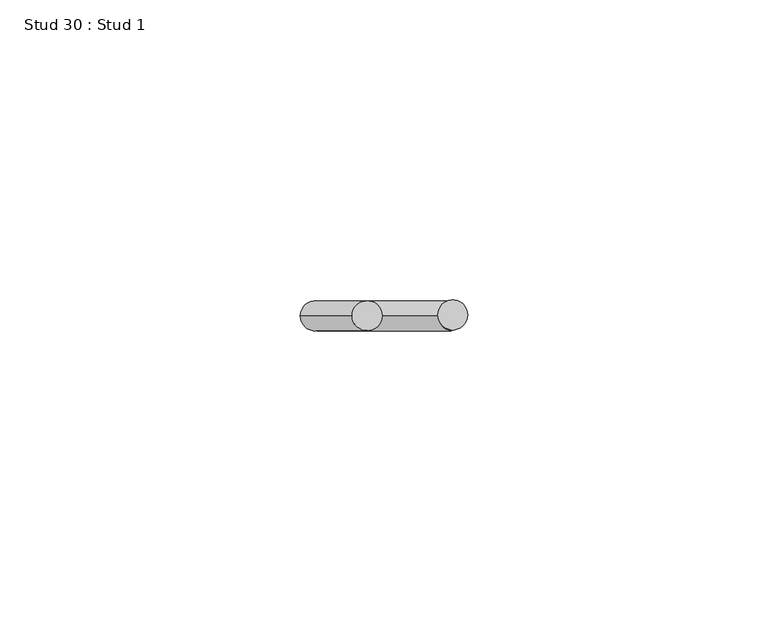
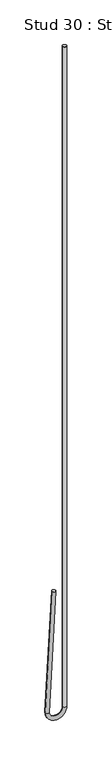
"""IFC4 building model written with IfcOpenShell, lengths in millimetres: proxy geometry, Stud 30 : Stud 1."""

from ifc_helpers import new_model, si_unit, point, frame, origin, place, context, project, spatial, circle_curve, ellipse_curve, trimmed, source, transform, mapped, element, save
from ifc_brep_helpers import plane_surface, cylinder_surface, revolved_surface, advanced_brep


def stud_30_stud_1_ab73d0b4(model_context):
    return source(origin(), model_context, "Body", "AdvancedBrep", [
        advanced_brep(
        [(-13440.3532788, 12082.5191481, 3640.800192), (-13435.3601311, 12082.5191481, 3640.5385122), (-13448.9939451, 12082.5191481, 3475.9264558), (-13444.0007975, 12082.5191481, 3475.664776), (-13426.0920812, 12082.5191481, 3475.7956159), (-13421.0920812, 12082.5191481, 3475.7956159), (-13421.0920812, 12082.5191481, 4390.1956159), (-13426.0920812, 12082.5191481, 4390.1956159)],
        [
            (0, 1, circle_curve(frame((-13437.8567049, 12082.5191481, 3640.6693521), z_axis=(0.05233595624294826, 0.0, 0.9986295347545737), x_axis=(0.9986295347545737, 0.0, -0.05233595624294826)), 2.5)),
            (1, 0, circle_curve(frame((-13437.8567049, 12082.5191481, 3640.6693521), z_axis=(0.05233595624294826, 0.0, 0.9986295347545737), x_axis=(0.9986295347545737, 0.0, -0.05233595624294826)), 2.5)),
            (0, 2),
            (2, 3, circle_curve(frame((-13446.4973713, 12082.5191481, 3475.7956159), z_axis=(0.05233595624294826, 0.0, 0.9986295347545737), x_axis=(0.9986295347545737, 0.0, -0.05233595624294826)), 2.5)),
            (3, 1),
            (3, 2, circle_curve(frame((-13446.4973713, 12082.5191481, 3475.7956159), z_axis=(0.05233595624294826, 0.0, 0.9986295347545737), x_axis=(0.9986295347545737, 0.0, -0.05233595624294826)), 2.5)),
            (4, 3, circle_curve(frame((-13435.0447263, 12082.5191481, 3475.7956159), z_axis=(0.0, 1.0, 0.0), x_axis=(-1.0, 0.0, 0.0)), 8.952645)),
            (2, 5, circle_curve(frame((-13435.0447263, 12082.5191481, 3475.7956159), z_axis=(0.0, -1.0, 0.0), x_axis=(-1.0, 0.0, 0.0)), 13.952645)),
            (5, 4, circle_curve(frame((-13423.5920812, 12082.5191481, 3475.7956159), z_axis=(0.0, 0.0, -1.0), x_axis=(-1.0, 0.0, 0.0)), 2.5)),
            (4, 5, circle_curve(frame((-13423.5920812, 12082.5191481, 3475.7956159), z_axis=(0.0, 0.0, -1.0), x_axis=(-1.0, 0.0, 0.0)), 2.5)),
            (6, 7, circle_curve(frame((-13423.5920812, 12082.5191481, 4390.1956159), z_axis=(0.0, 0.0, 1.0), x_axis=(-1.0, 0.0, 0.0)), 2.5)),
            (7, 6, circle_curve(frame((-13423.5920812, 12082.5191481, 4390.1956159), z_axis=(0.0, 0.0, 1.0), x_axis=(-1.0, 0.0, 0.0)), 2.5)),
            (5, 6),
            (7, 4),
        ],
        [
            plane_surface(frame((-13437.8567049, 12676.2441481, 3640.6693521), z_axis=(0.05233595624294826, 0.0, 0.9986295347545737), x_axis=(0.0, -1.0, 0.0))),
            cylinder_surface(frame((-13437.8567049, 12082.5191481, 3640.6693521), z_axis=(0.05233595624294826, 0.0, 0.9986295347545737), x_axis=(0.9986295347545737, 0.0, -0.05233595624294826)), 2.5),
            revolved_surface(trimmed(ellipse_curve(frame((-13446.4973713, 12082.5191481, 3475.7956159), z_axis=(0.0, 0.0, 1.0), x_axis=(1.0, 0.0, 0.0)), 2.5, 2.5), [point((-13448.9973713, 12082.5191481, 3475.7956159))], [point((-13443.9973713, 12082.5191481, 3475.7956159))], True, "CARTESIAN"), (-13435.0447263, 12676.2441481, 3475.7956159), (0.0, -1.0, 0.0)),
            revolved_surface(trimmed(ellipse_curve(frame((-13446.4973713, 12082.5191481, 3475.7956159), z_axis=(0.0, 0.0, 1.0), x_axis=(1.0, 0.0, 0.0)), 2.5, 2.5), [point((-13443.9973713, 12082.5191481, 3475.7956159))], [point((-13448.9973713, 12082.5191481, 3475.7956159))], True, "CARTESIAN"), (-13435.0447263, 12676.2441481, 3475.7956159), (0.0, -1.0, 0.0)),
            plane_surface(frame((-13423.5920812, 12676.2441481, 4390.1956159), z_axis=(0.0, 0.0, 1.0), x_axis=(0.0, -1.0, 0.0))),
            cylinder_surface(frame((-13423.5920812, 12082.5191481, 3475.7956159), z_axis=(0.0, 0.0, -1.0), x_axis=(-1.0, 0.0, 0.0)), 2.5),
        ],
        [
            (0, [[1, 2]]),
            (1, [[-1, 3, 4, 5]]),
            (1, [[-2, -5, 6, -3]]),
            (2, [[7, -4, 8, 9]]),
            (3, [[-8, -6, -7, 10]]),
            (4, [[11, 12]]),
            (5, [[-9, 13, -12, 14]]),
            (5, [[-10, -14, -11, -13]]),
        ],
    ),
    ])


if __name__ == "__main__":
    model = new_model("IFC4")
    model_context = context("Model", 3, world=origin())
    ifc_project = project(units=[si_unit("LENGTHUNIT", "METRE", prefix="MILLI")], contexts=[model_context])
    site = spatial("IfcSite", under=ifc_project)
    building = spatial("IfcBuilding", under=site)
    placement = place(None, origin())
    stud_30_stud_1_shape = stud_30_stud_1_ab73d0b4(model_context)
    element("IfcBuildingElementProxy", 1, Name="Stud 30 : Stud 1", ObjectType="Stud 30 : Stud 1", at=placement, inside=building, context=model_context, shape_type="MappedRepresentation", body=[
        mapped(stud_30_stud_1_shape, transform((0.0, 0.0, 0.0), x_axis=(1.0, 0.0, 0.0), y_axis=(0.0, 1.0, 0.0), z_axis=(0.0, 0.0, 1.0))),
    ])
    save(model, "model.ifc")
